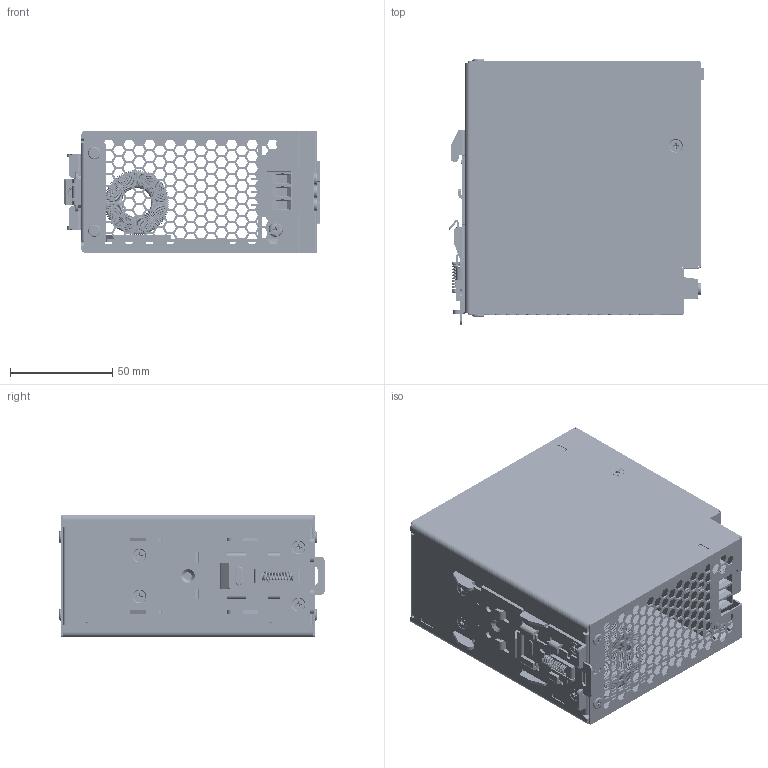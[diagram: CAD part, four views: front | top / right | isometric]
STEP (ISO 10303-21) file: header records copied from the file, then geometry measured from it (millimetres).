
FILE_DESCRIPTION((''),'2;1');
FILE_NAME('DRP-24V240W2BN-PD02_ASM','2015-02-20T',('Pattrapol.seng'),(''),'PRO/ENGINEER BY PARAMETRIC TECHNOLOGY CORPORATION, 2010180','PRO/ENGINEER BY PARAMETRIC TECHNOLOGY CORPORATION, 2010180','');
FILE_SCHEMA(('CONFIG_CONTROL_DESIGN','SHAPE_APPEARANCE_LAYERS_GROUPS'));
Products named in the file (39): 330320930202; 330320910101; 326838880000; 2958067503_MAINBOARD; 3461420800; 307301387W_A1-1; 307301387W_A1-2; 307301387W_A1-3; 307301387W_A1_ASM; 307301387W_ASM; 2968187103_DCT-1871; 3350940600; ASSY_DCT-1871_ASM; EE_LED750; EE_VR550; 3352085700; 3105263700; 307662657W_A1; 307662657W_A2; 307662657W_A3_AF0; 307662657W_ASM; 2968186903_DCT-1869; ASSY_DCT-1869_ASM; 3470422400; 3243172001; L801_BASE; L801_CORE; ASSY_L801_UPDATE_ASM; ASSY_MAINBOARD_ASM; 3100000600; 3103300600; 3105039100; 326320750101; 3105469000; 346654410102; 346008810000; 346202620000; ASSY_LATCH-NEW_ASM; DRP-24V240W2BN-PD02_ASM
Assembly tree (53 placements, depth 6):
  DRP-24V240W2BN-PD02_ASM
    330320930202
    330320910101
    326838880000
    ASSY_MAINBOARD_ASM
      2958067503_MAINBOARD
      3461420800
      ASSY_DCT-1871_ASM
        307301387W_ASM
          307301387W_A1_ASM  x3
            307301387W_A1-1
            307301387W_A1-2
            307301387W_A1-3
        2968187103_DCT-1871
        3350940600
      EE_LED750
      EE_VR550
      3352085700
      3105263700  x2
      ASSY_DCT-1869_ASM
        307662657W_ASM
          307662657W_A1
          307662657W_A2  x2
          307662657W_A3_AF0
        2968186903_DCT-1869
      3470422400
      3243172001
      ASSY_L801_UPDATE_ASM
        L801_BASE
        L801_CORE
    3100000600  x7
    3103300600
    3105039100  x4
    326320750101
    3105469000
    ASSY_LATCH-NEW_ASM
      346654410102
      346008810000
      346202620000
Bounding box: 125.14 x 130 x 60.08 mm (x, y, z)
Volume: 132805.3 mm3; surface area: 209430.4 mm2
Topology: 54 solids, 56 shells, 9289 faces, 24504 edges, 15362 vertices
Faces by surface type: plane 5388, bspline 1753, cylinder 1054, extrusion 808, torus 140, cone 124, sphere 22
Entity records: 373232 total; most frequent: CARTESIAN_POINT 168167, ORIENTED_EDGE 39168, DIRECTION 27862, EDGE_CURVE 19584, VECTOR 14178, LINE 13640, VERTEX_POINT 12317, PRESENTATION_STYLE_ASSIGNMENT 10431
